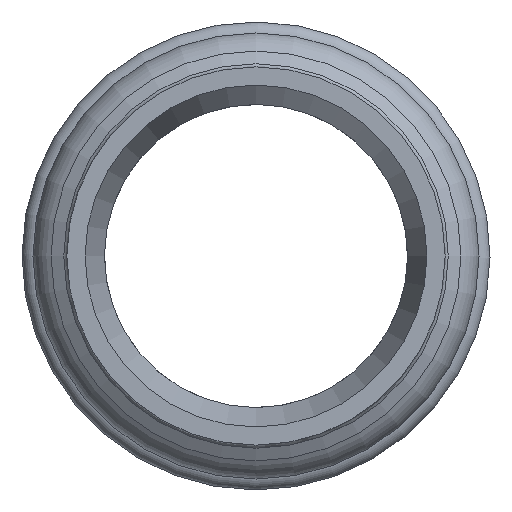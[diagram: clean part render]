
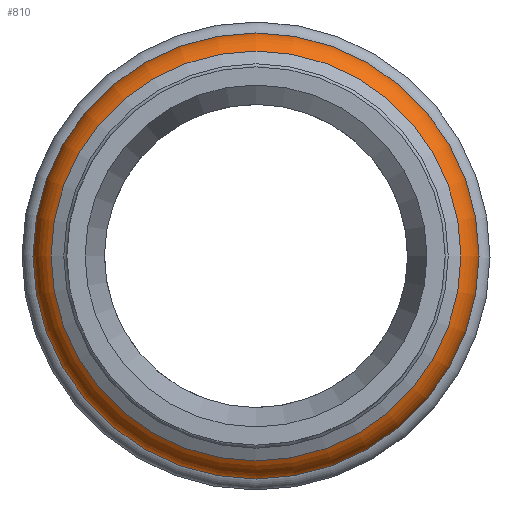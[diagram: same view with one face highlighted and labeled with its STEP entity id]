
A CAD part, left-side view. The second image highlights one B-rep face of the part: STEP entity #810.
In plain terms, the highlighted toroidal (fillet/blend) face has major radius 15.4 mm and minor radius 3 mm.
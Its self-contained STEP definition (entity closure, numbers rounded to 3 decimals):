
#628=CARTESIAN_POINT('',(-26.061,16.,0.0));
#629=VERTEX_POINT('',#628);
#630=CARTESIAN_POINT('',(-26.061,0.,0.0));
#631=DIRECTION('',(1.0,0.0,0.0));
#632=DIRECTION('',(0.0,-1.0,0.0));
#633=AXIS2_PLACEMENT_3D('',#630,#631,#632);
#634=CIRCLE('',#633,16.);
#635=EDGE_CURVE('',#629,#629,#634,.T.);
#772=CARTESIAN_POINT('',(-31.598,16.9,0.0));
#773=VERTEX_POINT('',#772);
#774=CARTESIAN_POINT('',(-31.598,0.,0.0));
#775=DIRECTION('',(1.0,0.0,0.0));
#776=DIRECTION('',(0.0,1.0,0.0));
#777=AXIS2_PLACEMENT_3D('',#774,#775,#776);
#778=CIRCLE('',#777,16.9);
#779=EDGE_CURVE('',#773,#773,#778,.T.);
#799=CARTESIAN_POINT('',(-29.,0.,0.0));
#800=DIRECTION('',(1.0,0.,0.0));
#801=DIRECTION('',(0.0,0.0,-1.0));
#802=AXIS2_PLACEMENT_3D('',#799,#800,#801);
#803=TOROIDAL_SURFACE('',#802,15.4,3.);
#804=ORIENTED_EDGE('',*,*,#779,.T.);
#805=EDGE_LOOP('',(#804));
#806=FACE_OUTER_BOUND('',#805,.T.);
#807=ORIENTED_EDGE('',*,*,#635,.F.);
#808=EDGE_LOOP('',(#807));
#809=FACE_BOUND('',#808,.T.);
#810=ADVANCED_FACE('',(#806,#809),#803,.T.);
